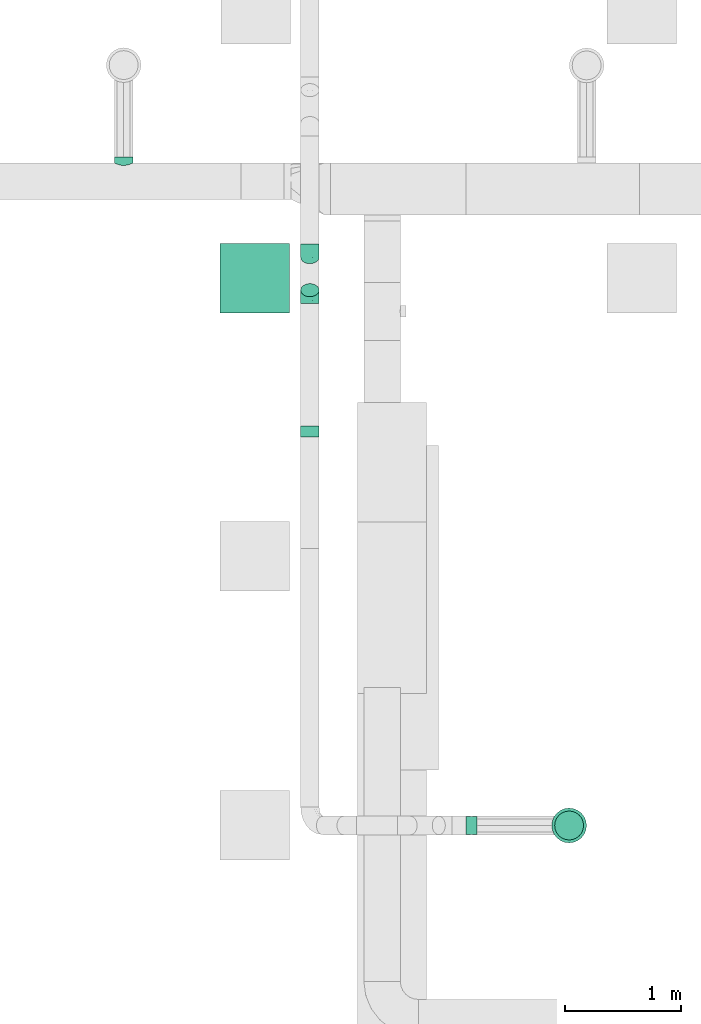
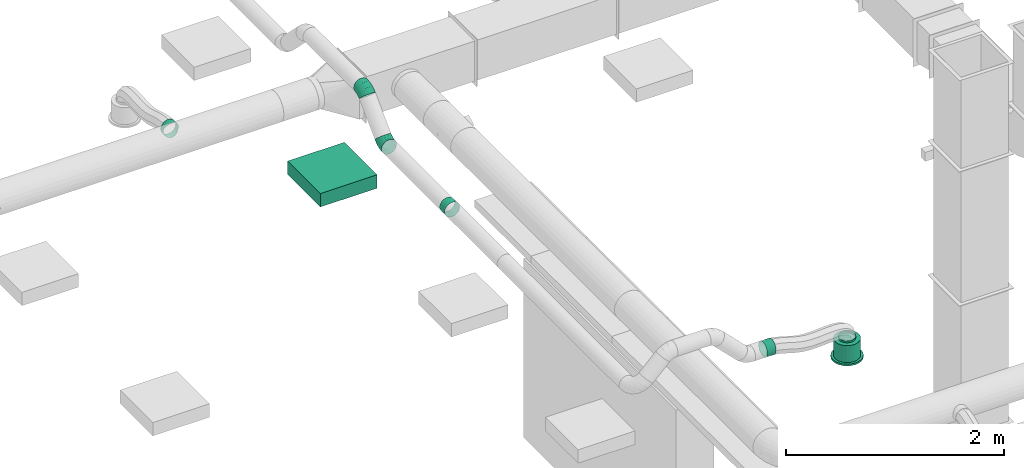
# One storey, part 26 of 119: 3 flow segments, 2 flow fittings, 1 distribution element, 1 flow terminal.
"""IFC2X3 building model written with IfcOpenShell, lengths in metres."""

from ifc_helpers import new_model, si_unit, direction, frame, frame_2d, origin, place, context, subcontext, project, spatial, rectangle, extrude, open_shell, surface_model, source, transform, mapped, element, save


model = new_model("IFC2X3")

# Units and contexts
model_context = context("Model", 3, precision=1e-05, world=origin(), true_north=direction((-0.4480736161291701, 0.8939966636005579)))
body_context = subcontext(model_context, "Body", "Model", "MODEL_VIEW")
ifc_project = project(units=[si_unit("LENGTHUNIT", "METRE"), si_unit("AREAUNIT", "SQUARE_METRE"), si_unit("VOLUMEUNIT", "CUBIC_METRE"), si_unit("PLANEANGLEUNIT", "RADIAN"), si_unit("THERMODYNAMICTEMPERATUREUNIT", "KELVIN"), si_unit("MASSUNIT", "GRAM", prefix="KILO"), si_unit("TIMEUNIT", "SECOND")], contexts=[model_context])

# Site, building, storey
site_placement = place(None, origin())
site = spatial("IfcSite", under=ifc_project, at=site_placement, Name="Site 1", CompositionType="ELEMENT")
building_placement = place(site_placement, origin())
building = spatial("IfcBuilding", under=site, at=building_placement, Name="Undefined", CompositionType="ELEMENT")
storey_placement = place(building_placement, frame((0.0, 0.0, 5.4)))
storey = spatial("IfcBuildingStorey", under=building, at=storey_placement, Name="R+1", CompositionType="ELEMENT", Elevation=5.4)

# Flow terminal
shared_shape_1 = source(origin(), body_context, "Body", "SurfaceModel", [
    surface_model("IfcFaceBasedSurfaceModel", [(0.0, 0.0, 0.0), (0.03915785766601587, 0.0, 0.0), (0.03915785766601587, 0.020000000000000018, 0.0), (3.552713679e-15, 0.020000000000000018, 0.0), (0.07698144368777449, 0.0, -0.010134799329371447), (0.07698144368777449, 0.020000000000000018, -0.010134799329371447), (0.11089314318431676, 0.0, -0.02971372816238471), (0.11089314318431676, 0.020000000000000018, -0.02971372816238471), (0.13858192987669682, 0.0, -0.05740251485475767), (0.13858192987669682, 0.020000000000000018, -0.05740251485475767), (0.15816085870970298, 0.0, -0.09131421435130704), (0.15816085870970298, 0.020000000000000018, -0.09131421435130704), (0.16829565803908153, 0.0, -0.12913780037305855), (0.16829565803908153, 0.020000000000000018, -0.12913780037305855), (0.16829565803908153, 0.0, -0.16829565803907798), (0.16829565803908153, 0.020000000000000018, -0.16829565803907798), (0.15816085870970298, 0.0, -0.20611924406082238), (0.15816085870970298, 0.020000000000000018, -0.20611924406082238), (0.13858192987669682, 0.0, -0.24003094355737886), (0.13858192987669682, 0.020000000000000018, -0.24003094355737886), (0.11089314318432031, 0.0, -0.2677197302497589), (0.11089314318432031, 0.020000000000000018, -0.2677197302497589), (0.07698144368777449, 0.0, -0.2872986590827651), (0.07698144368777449, 0.020000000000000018, -0.2872986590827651), (0.039157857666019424, 0.0, -0.29743345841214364), (0.039157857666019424, 0.020000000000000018, -0.29743345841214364), (3.552713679e-15, 0.0, -0.29743345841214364), (3.552713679e-15, 0.020000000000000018, -0.29743345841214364), (-0.03782358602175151, 0.0, -0.2872986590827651), (-0.03782358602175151, 0.020000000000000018, -0.2872986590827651), (-0.07173528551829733, 0.0, -0.2677197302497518), (-0.07173528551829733, 0.020000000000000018, -0.2677197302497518), (-0.0994240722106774, 0.0, -0.24003094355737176), (-0.0994240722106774, 0.020000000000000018, -0.24003094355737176), (-0.11900300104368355, 0.0, -0.2061192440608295), (-0.11900300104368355, 0.020000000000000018, -0.2061192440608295), (-0.1291378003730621, 0.0, -0.16829565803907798), (-0.1291378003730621, 0.020000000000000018, -0.16829565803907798), (-0.1291378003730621, 0.0, -0.12913780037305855), (-0.1291378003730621, 0.020000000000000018, -0.12913780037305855), (-0.11900300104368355, 0.0, -0.09131421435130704), (-0.11900300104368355, 0.020000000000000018, -0.09131421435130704), (-0.0994240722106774, 0.0, -0.05740251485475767), (-0.0994240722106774, 0.020000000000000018, -0.05740251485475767), (-0.07173528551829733, 0.0, -0.029713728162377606), (-0.07173528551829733, 0.020000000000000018, -0.029713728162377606), (-0.03782358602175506, 0.0, -0.010134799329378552), (-0.03782358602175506, 0.020000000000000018, -0.010134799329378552), (0.019578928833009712, 0.0, -0.14871672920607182), (0.019578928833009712, 0.020000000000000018, -0.14871672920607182), (0.003263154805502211, 0.020000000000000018, -0.02478612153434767), (0.035894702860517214, 0.020000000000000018, -0.02478612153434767), (0.035894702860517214, 0.20999999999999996, -0.02478612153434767), (0.003263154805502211, 0.20999999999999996, -0.02478612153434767), (0.06741435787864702, 0.020000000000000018, -0.033231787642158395), (0.06741435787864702, 0.20999999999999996, -0.033231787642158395), (0.0956741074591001, 0.020000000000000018, -0.04954756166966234), (0.0956741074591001, 0.20999999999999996, -0.04954756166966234), (0.11874809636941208, 0.020000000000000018, -0.07262155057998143), (0.11874809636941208, 0.20999999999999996, -0.07262155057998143), (0.13506387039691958, 0.020000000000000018, -0.10088130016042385), (0.13506387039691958, 0.20999999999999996, -0.10088130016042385), (0.1435095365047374, 0.020000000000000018, -0.13240095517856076), (0.1435095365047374, 0.20999999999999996, -0.13240095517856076), (0.1435095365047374, 0.020000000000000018, -0.16503250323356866), (0.1435095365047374, 0.20999999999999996, -0.16503250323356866), (0.13506387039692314, 0.020000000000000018, -0.19655215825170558), (0.13506387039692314, 0.20999999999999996, -0.19655215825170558), (0.11874809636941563, 0.020000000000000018, -0.2248119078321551), (0.11874809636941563, 0.20999999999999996, -0.2248119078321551), (0.09567410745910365, 0.020000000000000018, -0.24788589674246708), (0.09567410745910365, 0.20999999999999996, -0.24788589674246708), (0.06741435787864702, 0.020000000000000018, -0.26420167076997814), (0.06741435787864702, 0.20999999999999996, -0.26420167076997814), (0.035894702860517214, 0.020000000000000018, -0.27264733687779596), (0.035894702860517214, 0.20999999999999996, -0.27264733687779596), (0.0032631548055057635, 0.020000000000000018, -0.27264733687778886), (0.0032631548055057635, 0.20999999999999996, -0.27264733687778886), (-0.028256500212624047, 0.020000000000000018, -0.26420167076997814), (-0.028256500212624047, 0.20999999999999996, -0.26420167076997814), (-0.05651624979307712, 0.020000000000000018, -0.2478858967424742), (-0.05651624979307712, 0.20999999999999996, -0.2478858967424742), (-0.07959023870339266, 0.020000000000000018, -0.2248119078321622), (-0.07959023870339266, 0.20999999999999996, -0.2248119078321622), (-0.09590601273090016, 0.020000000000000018, -0.19655215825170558), (-0.09590601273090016, 0.20999999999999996, -0.19655215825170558), (-0.10435167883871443, 0.020000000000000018, -0.16503250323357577), (-0.10435167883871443, 0.20999999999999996, -0.16503250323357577), (-0.10435167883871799, 0.020000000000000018, -0.13240095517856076), (-0.10435167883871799, 0.20999999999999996, -0.13240095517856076), (-0.09590601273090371, 0.020000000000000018, -0.10088130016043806), (-0.09590601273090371, 0.20999999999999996, -0.10088130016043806), (-0.07959023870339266, 0.020000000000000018, -0.07262155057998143), (-0.07959023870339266, 0.20999999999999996, -0.07262155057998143), (-0.056516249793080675, 0.020000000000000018, -0.04954756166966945), (-0.056516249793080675, 0.20999999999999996, -0.04954756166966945), (-0.028256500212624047, 0.020000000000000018, -0.033231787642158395), (-0.028256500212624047, 0.20999999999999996, -0.033231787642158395), (0.019578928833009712, 0.20999999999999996, -0.14871672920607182), (0.009136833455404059, 0.20999999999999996, -0.06940114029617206), (0.030021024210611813, 0.20999999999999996, -0.06940114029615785), (0.030021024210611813, 0.22999999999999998, -0.06940114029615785), (0.009136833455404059, 0.22999999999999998, -0.06940114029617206), (0.05019360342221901, 0.20999999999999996, -0.07480636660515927), (0.05019360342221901, 0.22999999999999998, -0.07480636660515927), (0.06827984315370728, 0.20999999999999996, -0.08524846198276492), (0.06827984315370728, 0.22999999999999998, -0.08524846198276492), (0.0830471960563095, 0.20999999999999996, -0.10001581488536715), (0.0830471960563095, 0.22999999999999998, -0.10001581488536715), (0.0934892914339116, 0.20999999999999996, -0.11810205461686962), (0.0934892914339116, 0.22999999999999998, -0.11810205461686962), (0.09889451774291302, 0.20999999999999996, -0.13827463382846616), (0.09889451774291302, 0.22999999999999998, -0.13827463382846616), (0.09889451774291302, 0.20999999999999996, -0.15915882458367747), (0.09889451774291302, 0.22999999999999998, -0.15915882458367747), (0.09348929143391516, 0.20999999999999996, -0.179331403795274), (0.09348929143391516, 0.22999999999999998, -0.179331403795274), (0.0830471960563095, 0.20999999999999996, -0.19741764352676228), (0.0830471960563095, 0.22999999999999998, -0.19741764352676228), (0.06827984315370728, 0.20999999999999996, -0.2121849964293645), (0.06827984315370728, 0.22999999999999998, -0.2121849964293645), (0.05019360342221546, 0.20999999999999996, -0.22262709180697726), (0.05019360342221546, 0.22999999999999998, -0.22262709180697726), (0.030021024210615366, 0.20999999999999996, -0.22803231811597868), (0.030021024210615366, 0.22999999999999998, -0.22803231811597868), (0.009136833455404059, 0.20999999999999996, -0.22803231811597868), (0.009136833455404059, 0.22999999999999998, -0.22803231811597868), (-0.011035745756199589, 0.20999999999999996, -0.22262709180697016), (-0.011035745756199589, 0.22999999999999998, -0.22262709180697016), (-0.0291219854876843, 0.20999999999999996, -0.2121849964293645), (-0.0291219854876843, 0.22999999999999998, -0.2121849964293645), (-0.043889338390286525, 0.20999999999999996, -0.19741764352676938), (-0.043889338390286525, 0.22999999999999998, -0.19741764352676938), (-0.05433143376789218, 0.20999999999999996, -0.17933140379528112), (-0.05433143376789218, 0.22999999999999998, -0.17933140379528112), (-0.05973666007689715, 0.20999999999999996, -0.15915882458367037), (-0.05973666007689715, 0.22999999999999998, -0.15915882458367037), (-0.0597366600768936, 0.20999999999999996, -0.13827463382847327), (-0.0597366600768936, 0.22999999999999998, -0.13827463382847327), (-0.05433143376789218, 0.20999999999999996, -0.11810205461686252), (-0.05433143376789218, 0.22999999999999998, -0.11810205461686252), (-0.043889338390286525, 0.20999999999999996, -0.10001581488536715), (-0.043889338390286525, 0.22999999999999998, -0.10001581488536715), (-0.02912198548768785, 0.20999999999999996, -0.08524846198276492), (-0.02912198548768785, 0.22999999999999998, -0.08524846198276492), (-0.011035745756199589, 0.20999999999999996, -0.07480636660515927), (-0.011035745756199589, 0.22999999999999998, -0.07480636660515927)], [open_shell([[[0, 1, 2, 3]], [[1, 4, 5, 2]], [[4, 6, 7, 5]], [[6, 8, 9, 7]], [[8, 10, 11, 9]], [[10, 12, 13, 11]], [[12, 14, 15, 13]], [[14, 16, 17, 15]], [[16, 18, 19, 17]], [[18, 20, 21, 19]], [[20, 22, 23, 21]], [[22, 24, 25, 23]], [[24, 26, 27, 25]], [[26, 28, 29, 27]], [[28, 30, 31, 29]], [[30, 32, 33, 31]], [[32, 34, 35, 33]], [[34, 36, 37, 35]], [[36, 38, 39, 37]], [[38, 40, 41, 39]], [[40, 42, 43, 41]], [[42, 44, 45, 43]], [[44, 46, 47, 45]], [[46, 0, 3, 47]], [[48, 1, 0]], [[48, 4, 1]], [[48, 6, 4]], [[48, 8, 6]], [[48, 10, 8]], [[48, 12, 10]], [[48, 14, 12]], [[48, 16, 14]], [[48, 18, 16]], [[48, 20, 18]], [[48, 22, 20]], [[48, 24, 22]], [[48, 26, 24]], [[48, 28, 26]], [[48, 30, 28]], [[48, 32, 30]], [[48, 34, 32]], [[48, 36, 34]], [[48, 38, 36]], [[48, 40, 38]], [[48, 42, 40]], [[48, 44, 42]], [[48, 46, 44]], [[48, 0, 46]], [[49, 47, 3]], [[49, 45, 47]], [[49, 43, 45]], [[49, 41, 43]], [[49, 39, 41]], [[49, 37, 39]], [[49, 35, 37]], [[49, 33, 35]], [[49, 31, 33]], [[49, 29, 31]], [[49, 27, 29]], [[49, 25, 27]], [[49, 23, 25]], [[49, 21, 23]], [[49, 19, 21]], [[49, 17, 19]], [[49, 15, 17]], [[49, 13, 15]], [[49, 11, 13]], [[49, 9, 11]], [[49, 7, 9]], [[49, 5, 7]], [[49, 2, 5]], [[49, 3, 2]], [[50, 51, 52, 53]], [[51, 54, 55, 52]], [[54, 56, 57, 55]], [[56, 58, 59, 57]], [[58, 60, 61, 59]], [[60, 62, 63, 61]], [[62, 64, 65, 63]], [[64, 66, 67, 65]], [[66, 68, 69, 67]], [[68, 70, 71, 69]], [[70, 72, 73, 71]], [[72, 74, 75, 73]], [[74, 76, 77, 75]], [[76, 78, 79, 77]], [[78, 80, 81, 79]], [[80, 82, 83, 81]], [[82, 84, 85, 83]], [[84, 86, 87, 85]], [[86, 88, 89, 87]], [[88, 90, 91, 89]], [[90, 92, 93, 91]], [[92, 94, 95, 93]], [[94, 96, 97, 95]], [[96, 50, 53, 97]], [[49, 51, 50]], [[49, 54, 51]], [[49, 56, 54]], [[49, 58, 56]], [[49, 60, 58]], [[49, 62, 60]], [[49, 64, 62]], [[49, 66, 64]], [[49, 68, 66]], [[49, 70, 68]], [[49, 72, 70]], [[49, 74, 72]], [[49, 76, 74]], [[49, 78, 76]], [[49, 80, 78]], [[49, 82, 80]], [[49, 84, 82]], [[49, 86, 84]], [[49, 88, 86]], [[49, 90, 88]], [[49, 92, 90]], [[49, 94, 92]], [[49, 96, 94]], [[49, 50, 96]], [[98, 97, 53]], [[98, 95, 97]], [[98, 93, 95]], [[98, 91, 93]], [[98, 89, 91]], [[98, 87, 89]], [[98, 85, 87]], [[98, 83, 85]], [[98, 81, 83]], [[98, 79, 81]], [[98, 77, 79]], [[98, 75, 77]], [[98, 73, 75]], [[98, 71, 73]], [[98, 69, 71]], [[98, 67, 69]], [[98, 65, 67]], [[98, 63, 65]], [[98, 61, 63]], [[98, 59, 61]], [[98, 57, 59]], [[98, 55, 57]], [[98, 52, 55]], [[98, 53, 52]], [[99, 100, 101, 102]], [[100, 103, 104, 101]], [[103, 105, 106, 104]], [[105, 107, 108, 106]], [[107, 109, 110, 108]], [[109, 111, 112, 110]], [[111, 113, 114, 112]], [[113, 115, 116, 114]], [[115, 117, 118, 116]], [[117, 119, 120, 118]], [[119, 121, 122, 120]], [[121, 123, 124, 122]], [[123, 125, 126, 124]], [[125, 127, 128, 126]], [[127, 129, 130, 128]], [[129, 131, 132, 130]], [[131, 133, 134, 132]], [[133, 135, 136, 134]], [[135, 137, 138, 136]], [[137, 139, 140, 138]], [[139, 141, 142, 140]], [[141, 143, 144, 142]], [[143, 145, 146, 144]], [[145, 99, 102, 146]]])]),
])
flow_terminal_placement = place(storey_placement, origin())
element("IfcFlowTerminal", 1, at=flow_terminal_placement, inside=storey, Name="Air diffuseur - bouche", ObjectType="Air diffuseur - bouche", context=body_context, shape_type="MappedRepresentation", body=[
    mapped(shared_shape_1, transform((47.991208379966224, 10.385632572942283, 2.355), x_axis=(0.13052619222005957, -0.9914448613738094, 0.0), y_axis=(0.0, 0.0, 1.0), z_axis=(-0.9914448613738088, -0.13052619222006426, 0.0))),
])

# Flow segments
shared_shape_2 = source(origin(), body_context, "Body", "SurfaceModel", [
    surface_model("IfcFaceBasedSurfaceModel", [(0.0013669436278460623, 0.02088419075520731, 0.0), (0.0, 0.0, 0.0), (0.05136694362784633, -8.8817842e-16, 0.0), (0.05136694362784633, 0.02088419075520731, 0.0), (-0.0037970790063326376, -0.020172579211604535, -0.005405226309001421), (0.05136694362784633, -0.020172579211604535, -0.005405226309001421), (-0.009142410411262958, -0.03825881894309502, -0.015847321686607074), (0.05136694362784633, -0.03825881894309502, -0.015847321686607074), (-0.014689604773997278, -0.05302617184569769, -0.030614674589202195), (0.05136694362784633, -0.05302617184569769, -0.030614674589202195), (-0.018892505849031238, -0.06346826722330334, -0.04870091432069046), (0.05136694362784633, -0.06346826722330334, -0.04870091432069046), (-0.020463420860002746, -0.06887349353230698, -0.0688734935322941), (0.05136694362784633, -0.06887349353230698, -0.0688734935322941), (-0.018892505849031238, -0.06887349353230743, -0.08975768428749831), (0.05136694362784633, -0.06887349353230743, -0.08975768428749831), (-0.014689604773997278, -0.06346826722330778, -0.10993026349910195), (0.05136694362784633, -0.06346826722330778, -0.10993026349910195), (-0.009142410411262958, -0.05302617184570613, -0.12801650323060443), (0.05136694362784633, -0.05302617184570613, -0.12801650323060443), (-0.0037970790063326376, -0.03825881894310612, -0.14278385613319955), (0.05136694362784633, -0.03825881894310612, -0.14278385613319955), (0.0, -0.020172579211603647, -0.15322595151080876), (0.05136694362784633, -0.020172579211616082, -0.1532259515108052), (0.0013669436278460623, -1.3766765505e-14, -0.15863117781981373), (0.05136694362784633, -1.3766765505e-14, -0.15863117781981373), (0.0, 0.020884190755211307, -0.15863117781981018), (0.05136694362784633, 0.02088419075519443, -0.15863117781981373), (-0.0037970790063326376, 0.041056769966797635, -0.1532259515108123), (0.05136694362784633, 0.041056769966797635, -0.1532259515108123), (-0.009142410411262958, 0.05914300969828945, -0.14278385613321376), (0.05136694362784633, 0.05914300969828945, -0.14278385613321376), (-0.014689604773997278, 0.07391036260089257, -0.12801650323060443), (0.05136694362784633, 0.07391036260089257, -0.12801650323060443), (-0.018892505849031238, 0.08435245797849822, -0.10993026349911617), (0.05136694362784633, 0.08435245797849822, -0.10993026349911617), (-0.020463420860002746, 0.08975768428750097, -0.08975768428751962), (0.05136694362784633, 0.08975768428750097, -0.08975768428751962), (-0.018892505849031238, 0.0897576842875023, -0.06887349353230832), (0.05136694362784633, 0.0897576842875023, -0.06887349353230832), (-0.014689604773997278, 0.08435245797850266, -0.04870091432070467), (0.05136694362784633, 0.08435245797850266, -0.04870091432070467), (-0.009142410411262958, 0.07391036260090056, -0.030614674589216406), (0.05136694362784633, 0.07391036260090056, -0.030614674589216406), (-0.0037970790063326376, 0.05914300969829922, -0.01584732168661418), (0.05136694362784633, 0.05914300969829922, -0.01584732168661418), (0.0, 0.04105676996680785, -0.005405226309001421), (0.05136694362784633, 0.04105676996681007, -0.005405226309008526)], [open_shell([[[0, 1, 2, 3]], [[1, 4, 5, 2]], [[4, 6, 7, 5]], [[6, 8, 9, 7]], [[8, 10, 11, 9]], [[10, 12, 13, 11]], [[12, 14, 15, 13]], [[14, 16, 17, 15]], [[16, 18, 19, 17]], [[18, 20, 21, 19]], [[20, 22, 23, 21]], [[22, 24, 25, 23]], [[24, 26, 27, 25]], [[26, 28, 29, 27]], [[28, 30, 31, 29]], [[30, 32, 33, 31]], [[32, 34, 35, 33]], [[34, 36, 37, 35]], [[36, 38, 39, 37]], [[38, 40, 41, 39]], [[40, 42, 43, 41]], [[42, 44, 45, 43]], [[44, 46, 47, 45]], [[46, 0, 3, 47]]])]),
])
flow_segment_1_placement = place(storey_placement, origin())
element("IfcFlowSegment", 2, at=flow_segment_1_placement, inside=storey, Name="Piquage équerre circulaire", ObjectType="Piquage équerre circulaire", context=body_context, shape_type="MappedRepresentation", body=[
    mapped(shared_shape_2, transform((44.21542618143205, 16.108427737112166, 2.7957055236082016), x_axis=(0.0, 1.0, 0.0), y_axis=(-0.13052619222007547, 0.0, -0.9914448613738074), z_axis=(-0.9914448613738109, 0.0, 0.1305261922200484))),
])
shared_shape_3 = source(origin(), body_context, "Body", "SurfaceModel", [
    surface_model("IfcFaceBasedSurfaceModel", [(0.0, 0.020753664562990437, -2.22044605e-16), (0.0, 0.0, 0.0), (0.09500000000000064, -7.105427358e-15, 0.0), (0.09499999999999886, 0.020753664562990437, -2.22044605e-16), (0.0, -0.02004650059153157, -0.00537144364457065), (0.09499999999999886, -0.02004650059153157, -0.00537144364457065), (0.0, -0.03801970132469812, -0.015748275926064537), (0.09499999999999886, -0.03801970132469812, -0.015748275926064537), (0.0, -0.052694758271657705, -0.030423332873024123), (0.09499999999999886, -0.052694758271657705, -0.030423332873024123), (0.0, -0.06307159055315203, -0.048396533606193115), (0.09499999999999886, -0.06307159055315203, -0.048396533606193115), (0.0, -0.06844303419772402, -0.06844303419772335), (0.09499999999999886, -0.06844303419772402, -0.06844303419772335), (0.0, -0.06844303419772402, -0.08919669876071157), (0.09499999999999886, -0.06844303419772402, -0.08919669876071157), (0.0, -0.06307159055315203, -0.10924319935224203), (0.09499999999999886, -0.06307159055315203, -0.10924319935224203), (0.0, -0.05269475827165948, -0.1272164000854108), (0.09499999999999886, -0.05269475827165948, -0.1272164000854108), (0.0, -0.038019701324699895, -0.14189145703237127), (0.09499999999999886, -0.038019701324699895, -0.14189145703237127), (0.0, -0.02004650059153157, -0.15226828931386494), (0.09499999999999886, -0.02004650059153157, -0.15226828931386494), (0.0, 0.0, -0.15763973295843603), (0.09499999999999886, 0.0, -0.15763973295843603), (0.0, 0.020753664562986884, -0.1576397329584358), (0.09499999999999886, 0.020753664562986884, -0.1576397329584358), (0.0, 0.04080016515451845, -0.15226828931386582), (0.09499999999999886, 0.04080016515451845, -0.15226828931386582), (0.0, 0.05877336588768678, -0.14189145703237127), (0.09499999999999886, 0.05877336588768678, -0.14189145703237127), (0.0, 0.07344842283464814, -0.12721640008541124), (0.09499999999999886, 0.07344842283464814, -0.12721640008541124), (0.0, 0.08382525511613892, -0.10924319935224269), (0.09499999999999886, 0.08382525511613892, -0.10924319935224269), (0.0, 0.08919669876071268, -0.08919669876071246), (0.09499999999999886, 0.08919669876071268, -0.08919669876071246), (0.0, 0.0891966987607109, -0.06844303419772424), (0.09499999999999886, 0.0891966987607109, -0.06844303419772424), (0.0, 0.08382525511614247, -0.04839653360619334), (0.09499999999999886, 0.08382525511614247, -0.04839653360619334), (0.0, 0.07344842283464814, -0.03042333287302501), (0.09499999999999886, 0.07344842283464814, -0.03042333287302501), (0.0, 0.05877336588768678, -0.015748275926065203), (0.09499999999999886, 0.05877336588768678, -0.015748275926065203), (0.0, 0.04080016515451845, -0.0053714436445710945), (0.09499999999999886, 0.04080016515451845, -0.0053714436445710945)], [open_shell([[[0, 1, 2, 3]], [[1, 4, 5, 2]], [[4, 6, 7, 5]], [[6, 8, 9, 7]], [[8, 10, 11, 9]], [[10, 12, 13, 11]], [[12, 14, 15, 13]], [[14, 16, 17, 15]], [[16, 18, 19, 17]], [[18, 20, 21, 19]], [[20, 22, 23, 21]], [[22, 24, 25, 23]], [[24, 26, 27, 25]], [[26, 28, 29, 27]], [[28, 30, 31, 29]], [[30, 32, 33, 31]], [[32, 34, 35, 33]], [[34, 36, 37, 35]], [[36, 38, 39, 37]], [[38, 40, 41, 39]], [[40, 42, 43, 41]], [[42, 44, 45, 43]], [[44, 46, 47, 45]], [[46, 0, 3, 47]]])]),
])
flow_segment_2_placement = place(storey_placement, origin())
element("IfcFlowSegment", 3, at=flow_segment_2_placement, inside=storey, Name="Raccord (circ.)", ObjectType="Raccord (circ.)", context=body_context, shape_type="MappedRepresentation", body=[
    mapped(shared_shape_3, transform((45.88104150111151, 13.740000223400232, 2.6732088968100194), x_axis=(0.0, 1.0, 0.0), y_axis=(0.9914448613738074, 0.0, -0.13052619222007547), z_axis=(-0.13052619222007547, 0.0, -0.9914448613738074))),
])
flow_segment_3_placement = place(storey_placement, origin())
element("IfcFlowSegment", 4, at=flow_segment_3_placement, inside=storey, Name="Raccord (circ.)", ObjectType="Raccord (circ.)", context=body_context, shape_type="MappedRepresentation", body=[
    mapped(shared_shape_3, transform((47.34620837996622, 10.406208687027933, 2.8267911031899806), x_axis=(-1.0, 0.0, 0.0), y_axis=(7.266545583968e-12, -0.9914448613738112, 0.13052619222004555), z_axis=(0.0, 0.13052619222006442, 0.9914448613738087))),
])

# Flow fittings
shared_shape_4 = source(origin(), body_context, "Body", "SurfaceModel", [
    surface_model("IfcFaceBasedSurfaceModel", [(0.06265257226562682, -8.8817842e-16, 0.0), (0.062296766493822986, 0.02088115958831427, -7.105427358e-15), (0.0003558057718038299, 0.020881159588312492, 7.105427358e-15), (0.0, 0.0, 0.0), (-0.059474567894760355, 0.022956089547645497, -0.015896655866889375), (-0.06051773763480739, 0.002098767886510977, -0.01607928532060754), (-0.11311701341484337, 0.02696454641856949, -0.04660663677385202), (-0.11477645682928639, 0.006153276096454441, -0.04714207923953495), (0.061253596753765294, 0.04103889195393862, -0.0053597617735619), (0.0013989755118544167, 0.04103889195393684, -0.005359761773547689), (-0.05641614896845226, 0.04304393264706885, -0.02072097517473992), (-0.10825177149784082, 0.04691737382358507, -0.050396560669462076), (0.05959415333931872, 0.05909948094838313, -0.01571402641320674), (0.003058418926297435, 0.05909948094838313, -0.01571402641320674), (-0.05155090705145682, 0.06099334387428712, -0.030223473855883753), (-0.10051228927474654, 0.06465200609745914, -0.058253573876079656), (0.057431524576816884, 0.07383212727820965, -0.030357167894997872), (0.005221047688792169, 0.07383212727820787, -0.03035716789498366), (-0.0452104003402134, 0.07558110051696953, -0.04375657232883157), (-0.09042599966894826, 0.07895985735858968, -0.06964223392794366), (0.054913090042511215, 0.0842328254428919, -0.048291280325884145), (0.007739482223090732, 0.08423282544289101, -0.04829128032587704), (-0.037826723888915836, 0.08581307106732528, -0.06039801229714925), (-0.07868026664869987, 0.08886587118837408, -0.08378642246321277), (0.05221047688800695, 0.0895927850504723, -0.06829418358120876), (0.010442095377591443, 0.08959278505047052, -0.06829418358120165), (-0.029903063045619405, 0.09099196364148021, -0.07901370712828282), (-0.06607554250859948, 0.09369496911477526, -0.0997222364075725), (0.04950786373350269, 0.08954673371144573, -0.08900271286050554), (0.013144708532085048, 0.08954673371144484, -0.08900271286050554), (-0.02197940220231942, 0.09076484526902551, -0.09833502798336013), (-0.05347081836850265, 0.09311805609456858, -0.11636367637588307), (0.04698942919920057, 0.08409780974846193, -0.10900561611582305), (0.015663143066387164, 0.08409780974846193, -0.10900561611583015), (-0.014595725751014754, 0.08514719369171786, -0.11704525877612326), (-0.0417250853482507, 0.0871744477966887, -0.13257665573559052), (0.04482680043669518, 0.0736173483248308, -0.12693972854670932), (0.017825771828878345, 0.0736173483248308, -0.12693972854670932), (-0.008255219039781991, 0.07452184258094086, -0.13386932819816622), (-0.03163879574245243, 0.0762691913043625, -0.14725628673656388), (0.04316735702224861, 0.058819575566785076, -0.14158287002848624), (0.019485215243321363, 0.058819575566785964, -0.14158287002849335), (-0.0033899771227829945, 0.05961289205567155, -0.14766070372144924), (-0.02389931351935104, 0.06114546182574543, -0.15940217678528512), (0.04212418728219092, 0.040712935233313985, -0.15193713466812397), (0.020528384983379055, 0.040712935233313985, -0.15193713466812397), (-0.0003315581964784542, 0.041436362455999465, -0.15747952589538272), (-0.019034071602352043, 0.04283391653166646, -0.16818660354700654), (0.04176838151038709, 0.02053136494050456, -0.15729689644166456), (0.020884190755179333, 0.02053136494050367, -0.15729689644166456), (0.0007116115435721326, 0.021230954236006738, -0.16265665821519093), (-0.017374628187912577, 0.022582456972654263, -0.17301092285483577), (0.04212418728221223, -0.000349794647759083, -0.15729689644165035), (0.020528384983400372, -0.000349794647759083, -0.15729689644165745), (-0.0003315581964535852, 0.00037363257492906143, -0.1628392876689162), (-0.019034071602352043, 0.0017711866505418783, -0.17354636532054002), (0.04316735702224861, -0.020507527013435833, -0.15193713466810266), (0.019485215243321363, -0.020507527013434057, -0.15193713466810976), (-0.0033899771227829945, -0.019714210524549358, -0.15801496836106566), (-0.02389931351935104, -0.01818164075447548, -0.16975644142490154), (0.04482680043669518, -0.03856811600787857, -0.1415828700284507), (0.017825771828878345, -0.03856811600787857, -0.1415828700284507), (-0.008255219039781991, -0.03766362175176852, -0.1485124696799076), (-0.03163879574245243, -0.03591627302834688, -0.16189942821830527), (0.04698942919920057, -0.05330076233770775, -0.12693972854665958), (0.015663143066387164, -0.05330076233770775, -0.12693972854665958), (-0.014595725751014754, -0.05225137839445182, -0.1349793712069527), (-0.0417250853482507, -0.05022412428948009, -0.15051076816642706), (0.04950786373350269, -0.06370146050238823, -0.10900561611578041), (0.013144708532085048, -0.06370146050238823, -0.10900561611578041), (-0.02197940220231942, -0.06248334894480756, -0.11833793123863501), (-0.05347081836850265, -0.06013013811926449, -0.13636657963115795), (0.05221047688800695, -0.06906142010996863, -0.08900271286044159), (0.010442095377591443, -0.06906142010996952, -0.08900271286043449), (-0.029903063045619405, -0.06766224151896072, -0.09972223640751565), (-0.06607554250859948, -0.06495923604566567, -0.12043076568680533), (0.054913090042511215, -0.06901536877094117, -0.06829418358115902), (0.007739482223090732, -0.06901536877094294, -0.06829418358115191), (-0.037826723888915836, -0.06743512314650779, -0.08040091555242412), (-0.07868026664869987, -0.06438232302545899, -0.10378932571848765), (0.057431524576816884, -0.06356644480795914, -0.0482912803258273), (0.005221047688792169, -0.06356644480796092, -0.04829128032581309), (-0.0452104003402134, -0.061817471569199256, -0.0616906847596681), (-0.09042599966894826, -0.05843871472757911, -0.0875763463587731), (0.05959415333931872, -0.05308598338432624, -0.030357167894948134), (0.003058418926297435, -0.05308598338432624, -0.030357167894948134), (-0.05155090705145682, -0.05119212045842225, -0.04486661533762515), (-0.10051228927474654, -0.04753345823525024, -0.07289671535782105), (0.061253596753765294, -0.03828821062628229, -0.015714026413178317), (0.0013989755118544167, -0.03828821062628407, -0.015714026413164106), (-0.05641614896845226, -0.03628316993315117, -0.031075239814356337), (-0.10825177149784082, -0.03240972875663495, -0.06075082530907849), (0.062296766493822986, -0.020181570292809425, -0.005359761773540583), (0.0003558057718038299, -0.020181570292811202, -0.0053597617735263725), (-0.059474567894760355, -0.018106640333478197, -0.021256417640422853), (-0.11311701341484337, -0.014098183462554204, -0.051966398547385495)], [open_shell([[[0, 1, 2, 3]], [[3, 2, 4, 5]], [[5, 4, 6, 7]], [[1, 8, 9, 2]], [[2, 9, 10, 4]], [[4, 10, 11, 6]], [[8, 12, 13, 9]], [[9, 13, 14, 10]], [[10, 14, 15, 11]], [[12, 16, 17, 13]], [[13, 17, 18, 14]], [[14, 18, 19, 15]], [[16, 20, 21, 17]], [[17, 21, 22, 18]], [[18, 22, 23, 19]], [[20, 24, 25, 21]], [[21, 25, 26, 22]], [[22, 26, 27, 23]], [[24, 28, 29, 25]], [[25, 29, 30, 26]], [[26, 30, 31, 27]], [[28, 32, 33, 29]], [[29, 33, 34, 30]], [[30, 34, 35, 31]], [[32, 36, 37, 33]], [[33, 37, 38, 34]], [[34, 38, 39, 35]], [[36, 40, 41, 37]], [[37, 41, 42, 38]], [[38, 42, 43, 39]], [[40, 44, 45, 41]], [[41, 45, 46, 42]], [[42, 46, 47, 43]], [[44, 48, 49, 45]], [[45, 49, 50, 46]], [[46, 50, 51, 47]], [[48, 52, 53, 49]], [[49, 53, 54, 50]], [[50, 54, 55, 51]], [[52, 56, 57, 53]], [[53, 57, 58, 54]], [[54, 58, 59, 55]], [[56, 60, 61, 57]], [[57, 61, 62, 58]], [[58, 62, 63, 59]], [[60, 64, 65, 61]], [[61, 65, 66, 62]], [[62, 66, 67, 63]], [[64, 68, 69, 65]], [[65, 69, 70, 66]], [[66, 70, 71, 67]], [[68, 72, 73, 69]], [[69, 73, 74, 70]], [[70, 74, 75, 71]], [[72, 76, 77, 73]], [[73, 77, 78, 74]], [[74, 78, 79, 75]], [[76, 80, 81, 77]], [[77, 81, 82, 78]], [[78, 82, 83, 79]], [[80, 84, 85, 81]], [[81, 85, 86, 82]], [[82, 86, 87, 83]], [[84, 88, 89, 85]], [[85, 89, 90, 86]], [[86, 90, 91, 87]], [[88, 92, 93, 89]], [[89, 93, 94, 90]], [[90, 94, 95, 91]], [[92, 0, 3, 93]], [[93, 3, 5, 94]], [[94, 5, 7, 95]]])]),
])
flow_fitting_1_placement = place(storey_placement, origin())
element("IfcFlowFitting", 5, at=flow_fitting_1_placement, inside=storey, Name="Coude", ObjectType="Coude", context=body_context, shape_type="MappedRepresentation", body=[
    mapped(shared_shape_4, transform((45.90161761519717, 14.95953732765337, 2.6781778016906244), x_axis=(0.0, -0.9914448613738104, -0.13052619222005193), y_axis=(-0.9915887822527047, -0.016893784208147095, 0.12832103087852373), z_axis=(-0.12942830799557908, 0.12942830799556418, -0.9831056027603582))),
])
flow_fitting_2_placement = place(storey_placement, origin())
element("IfcFlowFitting", 6, at=flow_fitting_2_placement, inside=storey, Name="Coude", ObjectType="Coude", context=body_context, shape_type="MappedRepresentation", body=[
    mapped(shared_shape_4, transform((45.90161761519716, 15.288602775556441, 3.1764797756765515), x_axis=(0.0, -0.7933533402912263, -0.6087614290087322), y_axis=(0.9915887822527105, 0.07879096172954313, -0.10268238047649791), z_axis=(0.12942830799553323, -0.6036410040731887, 0.7866802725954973))),
])

# Distribution element
distribution_element_placement = place(storey_placement, origin())
element("IfcDistributionElement", 7, at=distribution_element_placement, inside=storey, Name="Decken-Rechteckleuchte mit Rahmen AP", ObjectType="Decken-Rechteckleuchte mit Rahmen AP", context=body_context, shape_type="SweptSolid", body=[
    extrude(rectangle(XDim=0.6000000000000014, YDim=0.6000000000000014, at=frame_2d((3.552713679e-15, 0.0), x_axis=(0.0, 1.0))), frame((45.42533699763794, 15.1125, 2.5500000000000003), z_axis=(0.0, 0.0, -1.0), x_axis=(1.0, 0.0, 0.0)), (0.0, 0.0, 1.0), 0.15),
])

save(model, "model.ifc")
